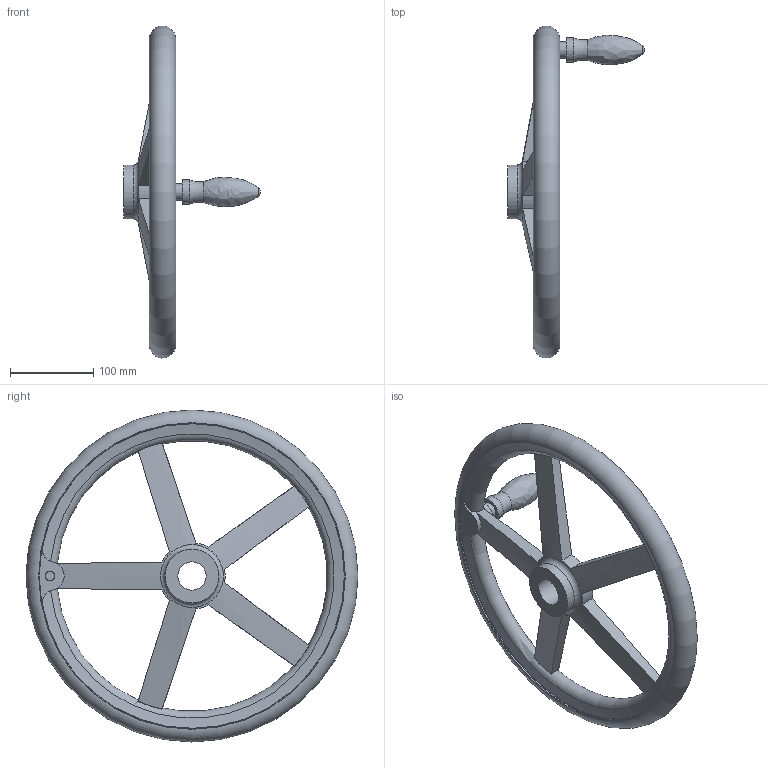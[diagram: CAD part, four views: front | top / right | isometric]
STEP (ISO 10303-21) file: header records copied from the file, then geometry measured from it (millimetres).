
FILE_DESCRIPTION( ( 'STEP AP203' ), '1' );
FILE_NAME( 'C:/Temp/Ganter_Step_05_03_2020/data/1_3/din_950/din_950_b/din_950_b_d/Handwheel DIN 950-AL-400-B34-D.stp', '2020-03-05T10:29:57', ( 'License CC BY-ND 4.0' ), ( 'CADENAS' ), ' ', 'PARTsolutions', ' ' );
FILE_SCHEMA( ( 'CONFIG_CONTROL_DESIGN' ) );
Length unit declared in the file: millimetre
Products named in the file (1): _Handwheel DIN 950-AL-400-B34-D
Bounding box: 165 x 399.9 x 399.9 mm (x, y, z)
Volume: 1431165.9 mm3; surface area: 210563.4 mm2
Topology: 1 solids, 1 shells, 61 faces, 176 edges, 113 vertices
Faces by surface type: torus 19, cylinder 18, plane 16, cone 6, bspline 1, sphere 1
Full cylindrical faces by diameter (mm): 20 x1, 29 x1, 34 x1, 65 x2, 368 x2
Entity records: 2477 total; most frequent: CARTESIAN_POINT 1011, ORIENTED_EDGE 298, DIRECTION 266, EDGE_CURVE 149, AXIS2_PLACEMENT_3D 124, VERTEX_POINT 109, EDGE_LOOP 90, FACE_OUTER_BOUND 77
